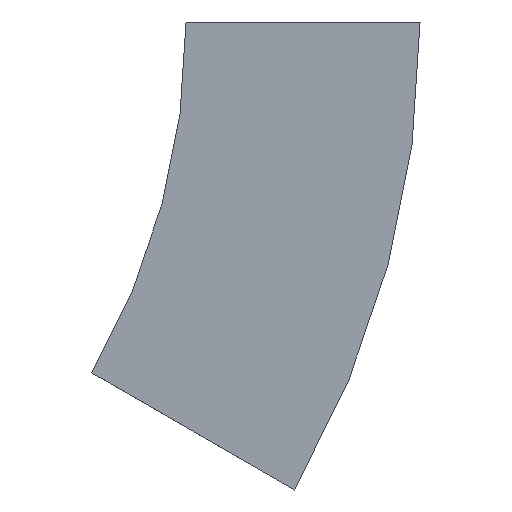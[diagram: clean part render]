
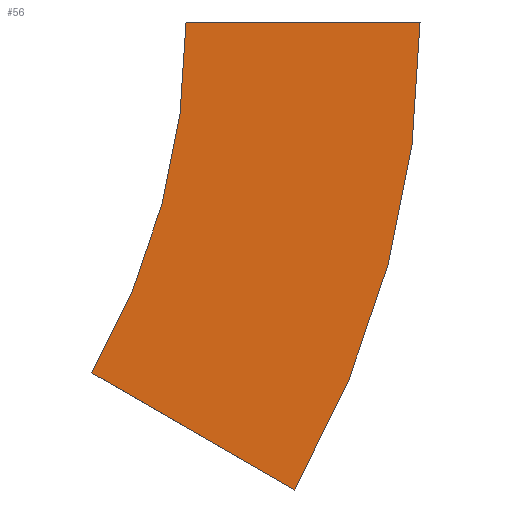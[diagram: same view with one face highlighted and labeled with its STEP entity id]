
A CAD part, left-side view. The second image highlights one B-rep face of the part: STEP entity #56.
In plain terms, the highlighted planar face has unit normal (-1, 0, 0) as drawn and (1, 0, 0) by its records, which use the part's own axes.
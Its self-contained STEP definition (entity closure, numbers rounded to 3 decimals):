
#6 = EDGE_CURVE ( 'NONE', #442, #459, #216, .T. ) ;
#35 = EDGE_CURVE ( 'NONE', #211, #533, #137, .T. ) ;
#56 = ADVANCED_FACE ( 'NONE', ( #178 ), #91, .F. ) ;
#91 = PLANE ( 'NONE',  #170 ) ;
#92 = CARTESIAN_POINT ( 'NONE',  ( 0., -100., 0. ) ) ;
#103 = VECTOR ( 'NONE', #262, 1000. ) ;
#137 = CIRCLE ( 'NONE', #226, 400. ) ;
#170 = AXIS2_PLACEMENT_3D ( 'NONE', #384, #256, #171 ) ;
#171 = DIRECTION ( 'NONE',  ( 0., 0., 1. ) ) ;
#178 = FACE_OUTER_BOUND ( 'NONE', #403, .T. ) ;
#183 = CARTESIAN_POINT ( 'NONE',  ( 0., -46.41, -200. ) ) ;
#199 = CARTESIAN_POINT ( 'NONE',  ( 0., 300., 0. ) ) ;
#211 = VERTEX_POINT ( 'NONE', #559 ) ;
#216 = CIRCLE ( 'NONE', #365, 300. ) ;
#226 = AXIS2_PLACEMENT_3D ( 'NONE', #199, #332, #502 ) ;
#230 = VECTOR ( 'NONE', #392, 1000. ) ;
#236 = DIRECTION ( 'NONE',  ( 1., 0., 0. ) ) ;
#239 = CARTESIAN_POINT ( 'NONE',  ( 0., 300., 0. ) ) ;
#256 = DIRECTION ( 'NONE',  ( -1., 0., 0. ) ) ;
#262 = DIRECTION ( 'NONE',  ( 0., 1., 0. ) ) ;
#312 = EDGE_CURVE ( 'NONE', #533, #459, #433, .T. ) ;
#332 = DIRECTION ( 'NONE',  ( 1., 0., 0. ) ) ;
#365 = AXIS2_PLACEMENT_3D ( 'NONE', #239, #236, #407 ) ;
#384 = CARTESIAN_POINT ( 'NONE',  ( 0., -100., 0. ) ) ;
#392 = DIRECTION ( 'NONE',  ( 0., 0.866, 0.5 ) ) ;
#398 = ORIENTED_EDGE ( 'NONE', *, *, #35, .T. ) ;
#403 = EDGE_LOOP ( 'NONE', ( #450, #506, #398, #456 ) ) ;
#407 = DIRECTION ( 'NONE',  ( 0., -1., 0. ) ) ;
#433 = LINE ( 'NONE', #183, #230 ) ;
#437 = CARTESIAN_POINT ( 'NONE',  ( 0., 0., 0. ) ) ;
#442 = VERTEX_POINT ( 'NONE', #437 ) ;
#450 = ORIENTED_EDGE ( 'NONE', *, *, #6, .F. ) ;
#456 = ORIENTED_EDGE ( 'NONE', *, *, #312, .T. ) ;
#459 = VERTEX_POINT ( 'NONE', #518 ) ;
#468 = LINE ( 'NONE', #92, #103 ) ;
#470 = EDGE_CURVE ( 'NONE', #211, #442, #468, .T. ) ;
#501 = CARTESIAN_POINT ( 'NONE',  ( 0., -46.41, -200. ) ) ;
#502 = DIRECTION ( 'NONE',  ( 0., -1., 0. ) ) ;
#506 = ORIENTED_EDGE ( 'NONE', *, *, #470, .F. ) ;
#518 = CARTESIAN_POINT ( 'NONE',  ( 0., 40.192, -150. ) ) ;
#533 = VERTEX_POINT ( 'NONE', #501 ) ;
#559 = CARTESIAN_POINT ( 'NONE',  ( 0., -100., 0. ) ) ;
